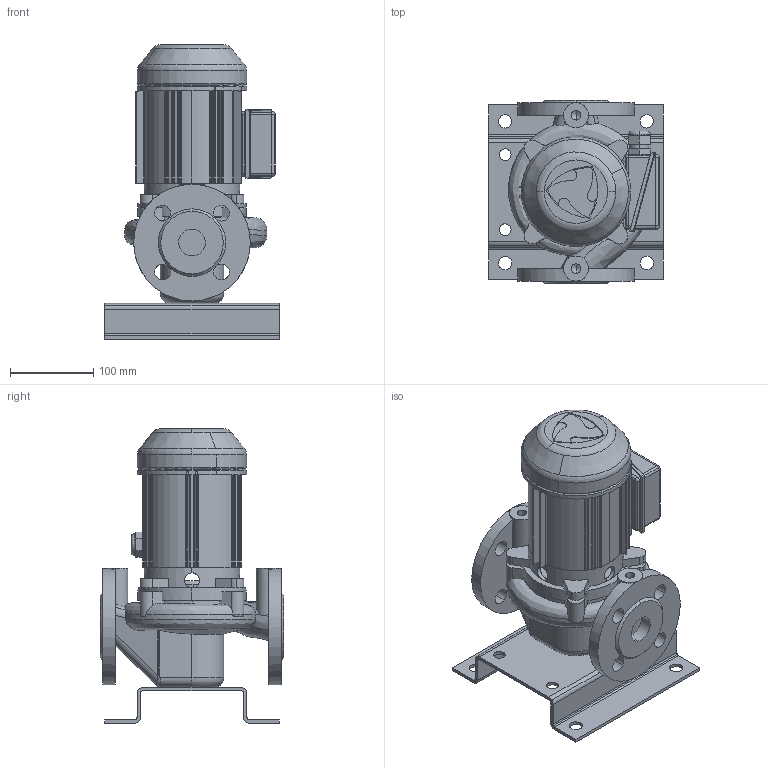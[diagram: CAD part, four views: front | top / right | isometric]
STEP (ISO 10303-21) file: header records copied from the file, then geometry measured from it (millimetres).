
FILE_DESCRIPTION(('STEP AP214'),'1');
FILE_NAME('export.stp','2018-05-29T08:58:20',(' '),(' '),'Spatial InterOp 3D',' ',' ');
FILE_SCHEMA(('AUTOMOTIVE_DESIGN { 1 0 10303 214 1 1 1 1 }'));
Length unit declared in the file: millimetre
Products named in the file (9): W_L32A4200; V_EKN12OP7; V_TLL32AAP15AKP25; V_PPL32A; V_JALKA35973; V_MOP752753762; RU_OP_752_753_762; TSUOJA_OP_7; KYTKOTELO_OP7_OKN8
Assembly tree (8 placements, depth 3):
  W_L32A4200
    V_EKN12OP7
    V_TLL32AAP15AKP25
    V_PPL32A
    V_JALKA35973
    V_MOP752753762
      RU_OP_752_753_762
      TSUOJA_OP_7
      KYTKOTELO_OP7_OKN8
Bounding box: 210 x 220 x 353.5 mm (x, y, z)
Volume: 3322797.6 mm3; surface area: 555826.9 mm2
Topology: 7 solids, 8 shells, 579 faces, 1572 edges, 1003 vertices
Faces by surface type: cylinder 323, plane 155, bspline 50, torus 19, cone 18, sphere 14
Entity records: 34082 total; most frequent: CARTESIAN_POINT 9480, DIRECTION 3160, ORIENTED_EDGE 3104, STYLED_ITEM 1595, PRESENTATION_STYLE_ASSIGNMENT 1595, COLOUR_RGB 1595, EDGE_CURVE 1552, AXIS2_PLACEMENT_3D 1278
